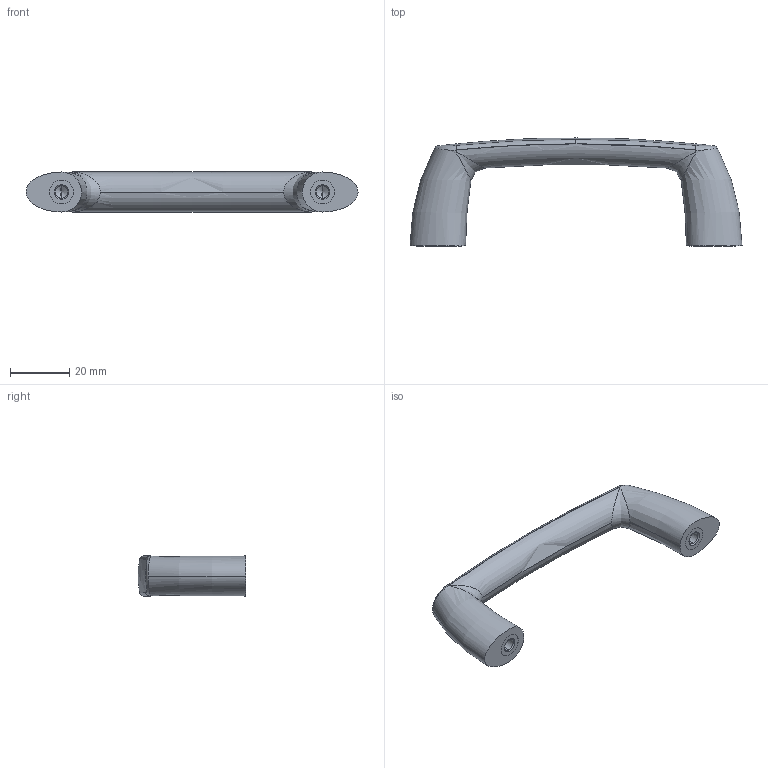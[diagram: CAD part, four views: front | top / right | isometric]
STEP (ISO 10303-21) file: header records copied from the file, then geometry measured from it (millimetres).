
FILE_DESCRIPTION (( 'STEP AP214' ), '1' );
FILE_NAME ('627-88-M5.step', '2020-02-07T10:05:12', ( '' ), ( '' ), 'SwSTEP 2.0', 'SolidWorks 2019', '' );
FILE_SCHEMA (( 'AUTOMOTIVE_DESIGN' ));
Length unit declared in the file: millimetre
Products named in the file (1): 627-88-M5
Bounding box: 112 x 36.43 x 13.5 mm (x, y, z)
Volume: 19144.3 mm3; surface area: 6766.3 mm2
Topology: 1 solids, 1 shells, 44 faces, 114 edges, 72 vertices
Faces by surface type: bspline 14, plane 12, cylinder 8, cone 8, torus 2
Entity records: 3525 total; most frequent: CARTESIAN_POINT 2378, ORIENTED_EDGE 220, DIRECTION 146, EDGE_CURVE 110, VERTEX_POINT 72, AXIS2_PLACEMENT_3D 63, B_SPLINE_CURVE_WITH_KNOTS 54, EDGE_LOOP 48
